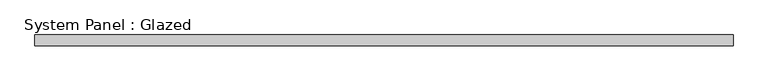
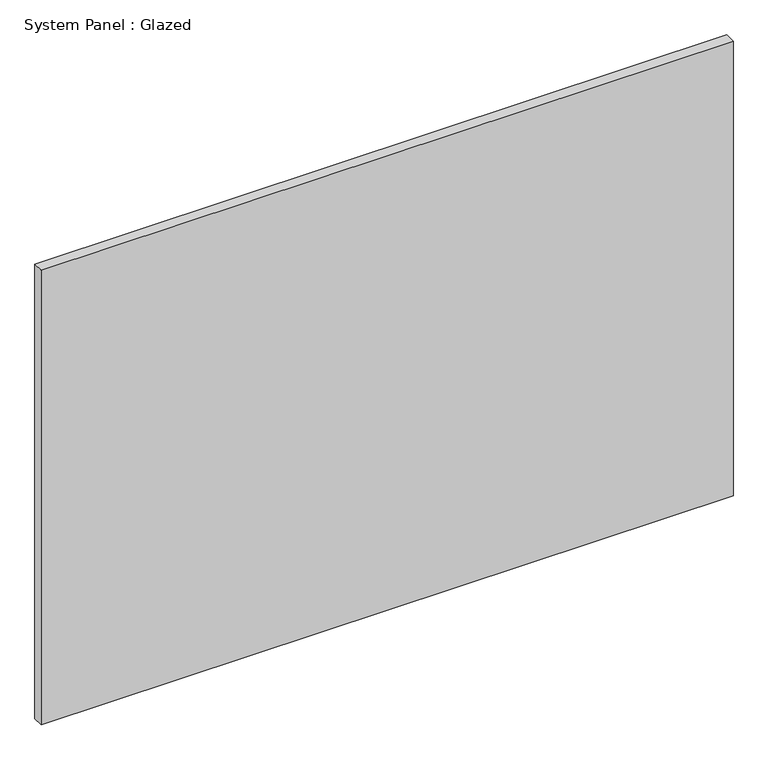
"""IFC4 building model written with IfcOpenShell, lengths in millimetres: plate geometry, System Panel : Glazed."""

from ifc_helpers import new_model, si_unit, origin, origin_with_axes, place, context, project, spatial, polyline, outline, extrude, source, transform, mapped, element, save


def system_panel_glazed_ef327d5a(model_context):
    return source(origin(), model_context, "Body", "SweptSolid", [
        extrude(outline(polyline([(818.2500001, 19.05), (-818.2500001, 19.05), (-818.2500001, 44.45), (818.2500001, 44.45), (818.2500001, 19.05)])), origin_with_axes(), (0.0, 0.0, 1.0), 1136.5),
    ])


if __name__ == "__main__":
    model = new_model("IFC4")
    model_context = context("Model", 3, world=origin())
    ifc_project = project(units=[si_unit("LENGTHUNIT", "METRE", prefix="MILLI")], contexts=[model_context])
    site = spatial("IfcSite", under=ifc_project)
    building = spatial("IfcBuilding", under=site)
    placement = place(None, origin())
    system_panel_glazed_shape = system_panel_glazed_ef327d5a(model_context)
    element("IfcPlate", 1, ObjectType="System Panel : Glazed", at=placement, inside=building, context=model_context, shape_type="MappedRepresentation", body=[
        mapped(system_panel_glazed_shape, transform((0.0, 0.0, 0.0), x_axis=(1.0, 0.0, 0.0), y_axis=(0.0, 1.0, 0.0), z_axis=(0.0, 0.0, 1.0))),
    ])
    save(model, "model.ifc")
